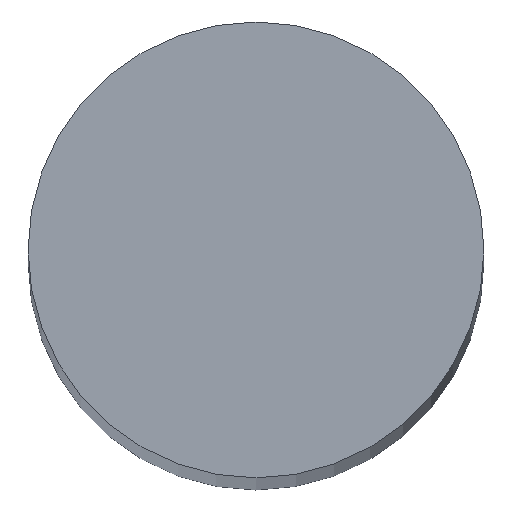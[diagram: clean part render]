
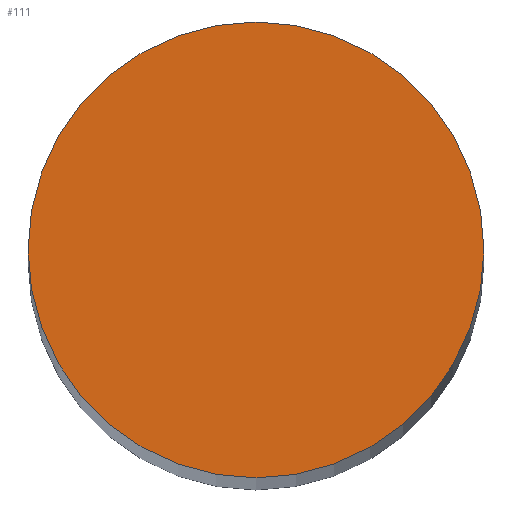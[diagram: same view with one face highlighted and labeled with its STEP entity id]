
A CAD part, top view. The second image highlights one B-rep face of the part: STEP entity #111.
In plain terms, the highlighted planar face has unit normal (0, 0, 1).
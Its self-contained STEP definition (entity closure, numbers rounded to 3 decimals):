
#6 = FACE_OUTER_BOUND ( 'NONE', #22, .T. ) ;
#10 = ORIENTED_EDGE ( 'NONE', *, *, #134, .T. ) ;
#12 = ORIENTED_EDGE ( 'NONE', *, *, #129, .T. ) ;
#22 = EDGE_LOOP ( 'NONE', ( #12, #10 ) ) ;
#32 = CIRCLE ( 'NONE', #119, 6. ) ;
#34 = CIRCLE ( 'NONE', #126, 6. ) ;
#47 = CARTESIAN_POINT ( 'NONE',  ( 6., 0., 91.5 ) ) ;
#48 = VERTEX_POINT ( 'NONE', #47 ) ;
#49 = VERTEX_POINT ( 'NONE', #54 ) ;
#54 = CARTESIAN_POINT ( 'NONE',  ( -6., 0., 91.5 ) ) ;
#63 = CARTESIAN_POINT ( 'NONE',  ( 0., 0., 91.5 ) ) ;
#64 = PLANE ( 'NONE',  #117 ) ;
#66 = DIRECTION ( 'NONE',  ( 0., 0., 1. ) ) ;
#67 = DIRECTION ( 'NONE',  ( 1., 0., 0. ) ) ;
#71 = CARTESIAN_POINT ( 'NONE',  ( 0., 0., 91.5 ) ) ;
#75 = CARTESIAN_POINT ( 'NONE',  ( 0., 0., 91.5 ) ) ;
#76 = DIRECTION ( 'NONE',  ( 0., 0., 1. ) ) ;
#77 = DIRECTION ( 'NONE',  ( 1., 0., 0. ) ) ;
#83 = DIRECTION ( 'NONE',  ( 0., 0., 1. ) ) ;
#84 = DIRECTION ( 'NONE',  ( 1., 0., 0. ) ) ;
#111 = ADVANCED_FACE ( 'NONE', ( #6 ), #64, .T. ) ;
#117 = AXIS2_PLACEMENT_3D ( 'NONE', #63, #66, #67 ) ;
#119 = AXIS2_PLACEMENT_3D ( 'NONE', #75, #76, #77 ) ;
#126 = AXIS2_PLACEMENT_3D ( 'NONE', #71, #83, #84 ) ;
#129 = EDGE_CURVE ( 'NONE', #49, #48, #32, .T. ) ;
#134 = EDGE_CURVE ( 'NONE', #48, #49, #34, .T. ) ;
